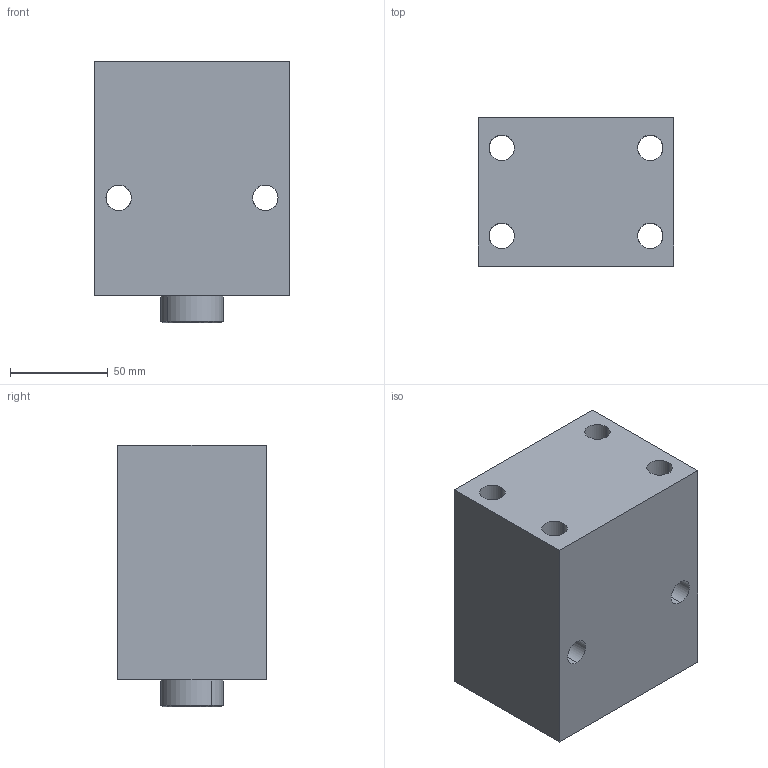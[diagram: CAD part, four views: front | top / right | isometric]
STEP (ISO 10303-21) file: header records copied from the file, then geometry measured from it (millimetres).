
FILE_DESCRIPTION (( 'STEP AP203' ), '1' );
FILE_NAME ('Block cylinder B01C-450F.STEP', '2022-07-09T18:30:55', ( '' ), ( '' ), 'SwSTEP 2.0', 'SolidWorks 2017', '' );
FILE_SCHEMA (( 'CONFIG_CONTROL_DESIGN' ));
Length unit declared in the file: millimetre
Products named in the file (3): Body_450F_50ST; Block cylinder B01C-450F; Piston_450F_50sT
Assembly tree (2 placements, depth 2):
  Block cylinder B01C-450F
    Body_450F_50ST
    Piston_450F_50sT
Bounding box: 100 x 76 x 134 mm (x, y, z)
Volume: 850662.4 mm3; surface area: 94319.7 mm2
Topology: 2 solids, 2 shells, 226 faces, 607 edges, 399 vertices
Faces by surface type: plane 112, bspline 74, cylinder 32, cone 8
Entity records: 12440 total; most frequent: CARTESIAN_POINT 6969, ORIENTED_EDGE 1202, DIRECTION 801, EDGE_CURVE 601, VERTEX_POINT 399, VECTOR 371, LINE 371, EDGE_LOOP 266
